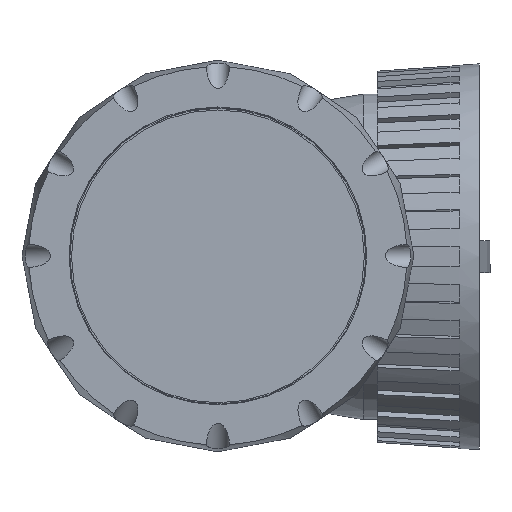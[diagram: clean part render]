
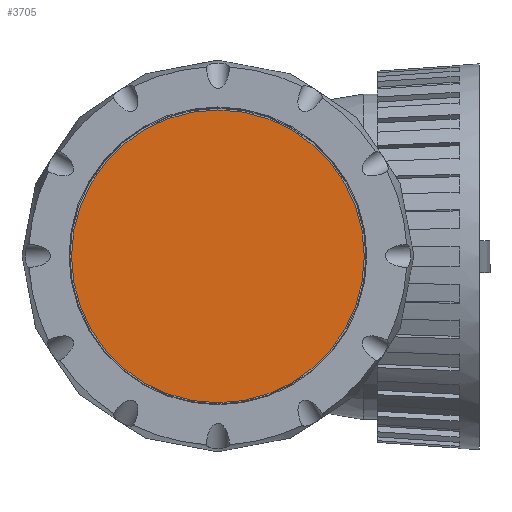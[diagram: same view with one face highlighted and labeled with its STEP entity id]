
A CAD part, top view. The second image highlights one B-rep face of the part: STEP entity #3705.
In plain terms, the highlighted planar face has unit normal (0, 0, 1).
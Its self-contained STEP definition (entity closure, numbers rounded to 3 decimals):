
#728=PLANE('',#3930);
#920=FACE_OUTER_BOUND('',#1131,.T.);
#1131=EDGE_LOOP('',(#2410));
#1360=CIRCLE('',#3928,25.075);
#1485=VERTEX_POINT('',#5300);
#1859=EDGE_CURVE('',#1485,#1485,#1360,.T.);
#2410=ORIENTED_EDGE('',*,*,#1859,.T.);
#3705=ADVANCED_FACE('',(#920),#728,.T.);
#3928=AXIS2_PLACEMENT_3D('',#5301,#4267,#4268);
#3930=AXIS2_PLACEMENT_3D('',#5303,#4271,#4272);
#4267=DIRECTION('center_axis',(0.,0.,1.));
#4268=DIRECTION('ref_axis',(-1.,0.,0.));
#4271=DIRECTION('center_axis',(0.,0.,1.));
#4272=DIRECTION('ref_axis',(1.,0.,0.));
#5300=CARTESIAN_POINT('',(25.075,0.,131.8));
#5301=CARTESIAN_POINT('Origin',(0.,0.,131.8));
#5303=CARTESIAN_POINT('Origin',(0.,0.,131.8));
